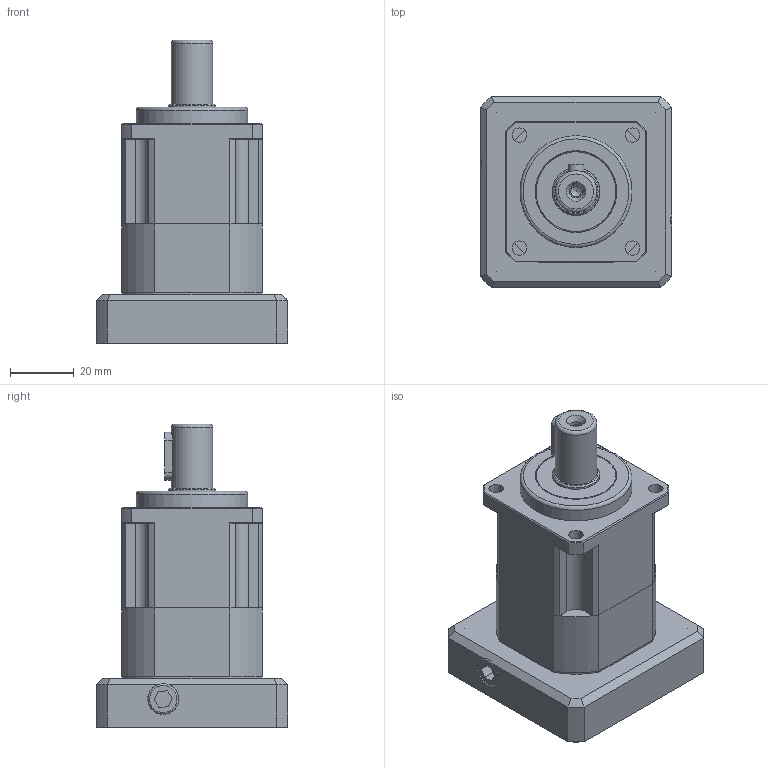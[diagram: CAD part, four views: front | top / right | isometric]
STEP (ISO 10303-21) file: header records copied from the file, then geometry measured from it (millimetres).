
FILE_DESCRIPTION((''),'2;1');
FILE_NAME('D:\WORK\감속기 도면\조립도(서보규격별)\KSB_PGX-H\KSB-44 (PGX44-H)\KSB-44-1(50-70-M5-S8).stp','2019-04-25T13:45:15',('Young'),(''),'Autodesk Inventor 2012','Autodesk Inventor 2012','');
FILE_SCHEMA(('AUTOMOTIVE_DESIGN { 1 0 10303 214 1 1 1 1 }'));
Length unit declared in the file: millimetre
Products named in the file (1): KSB-44-1(50-70-M5-S8)
Bounding box: 60 x 60 x 95 mm (x, y, z)
Volume: 120099.2 mm3; surface area: 44560.1 mm2
Topology: 16 solids, 16 shells, 435 faces, 1049 edges, 672 vertices
Faces by surface type: plane 229, cylinder 118, cone 65, torus 14, bspline 9
Full cylindrical faces by diameter (mm): 2.5 x4, 3.242 x1, 3.3 x5, 4 x6, 4.2 x8, 4.5 x9, 6 x4, 7 x5, 8.2 x1, 9.5 x2, 13 x1, 14.2 x1, 14.8 x2, 15 x3, 25 x4, 28 x1, 30 x1, 32 x3, 35 x1, 50 x1
Entity records: 12721 total; most frequent: CARTESIAN_POINT 3081, DIRECTION 1957, ORIENTED_EDGE 1820, EDGE_CURVE 910, AXIS2_PLACEMENT_3D 744, VERTEX_POINT 643, EDGE_LOOP 611, VECTOR 469
